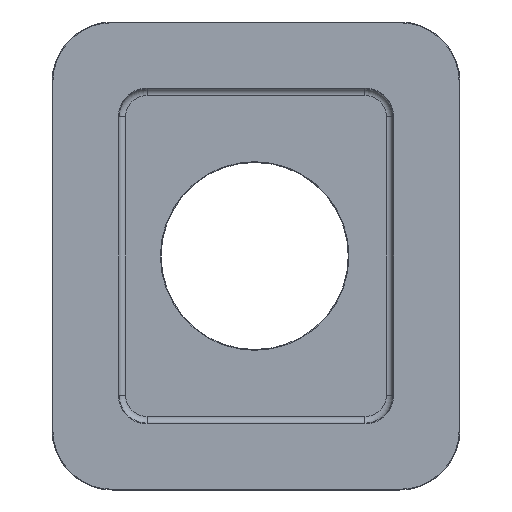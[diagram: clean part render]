
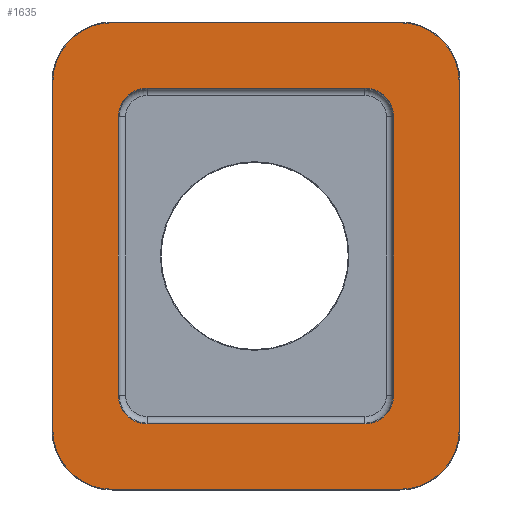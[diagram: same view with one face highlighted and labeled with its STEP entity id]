
A CAD part, front view. The second image highlights one B-rep face of the part: STEP entity #1635.
In plain terms, the highlighted planar face has unit normal (0, -1, 0).
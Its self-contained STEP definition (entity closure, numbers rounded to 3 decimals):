
#1048 = VERTEX_POINT('',#1049);
#1049 = CARTESIAN_POINT('',(45.,300.,0.5));
#1057 = VERTEX_POINT('',#1058);
#1058 = CARTESIAN_POINT('',(260.,300.,0.5));
#1064 = EDGE_CURVE('',#1048,#1057,#1065,.T.);
#1065 = LINE('',#1066,#1067);
#1066 = CARTESIAN_POINT('',(45.,300.,0.5));
#1067 = VECTOR('',#1068,1.);
#1068 = DIRECTION('',(1.,0.,0.));
#1079 = VERTEX_POINT('',#1080);
#1080 = CARTESIAN_POINT('',(0.5,300.,45.));
#1088 = EDGE_CURVE('',#1079,#1048,#1089,.T.);
#1089 = CIRCLE('',#1090,44.5);
#1090 = AXIS2_PLACEMENT_3D('',#1091,#1092,#1093);
#1091 = CARTESIAN_POINT('',(45.,300.,45.));
#1092 = DIRECTION('',(0.,-1.,-0.));
#1093 = DIRECTION('',(-1.,0.,0.));
#1104 = VERTEX_POINT('',#1105);
#1105 = CARTESIAN_POINT('',(0.5,300.,305.));
#1113 = EDGE_CURVE('',#1104,#1079,#1114,.T.);
#1114 = LINE('',#1115,#1116);
#1115 = CARTESIAN_POINT('',(0.5,300.,305.));
#1116 = VECTOR('',#1117,1.);
#1117 = DIRECTION('',(-0.,-0.,-1.));
#1228 = VERTEX_POINT('',#1229);
#1229 = CARTESIAN_POINT('',(45.,300.,349.5));
#1237 = EDGE_CURVE('',#1228,#1104,#1238,.T.);
#1238 = CIRCLE('',#1239,44.5);
#1239 = AXIS2_PLACEMENT_3D('',#1240,#1241,#1242);
#1240 = CARTESIAN_POINT('',(45.,300.,305.));
#1241 = DIRECTION('',(-0.,-1.,0.));
#1242 = DIRECTION('',(0.,0.,1.));
#1253 = VERTEX_POINT('',#1254);
#1254 = CARTESIAN_POINT('',(260.,300.,349.5));
#1262 = EDGE_CURVE('',#1253,#1228,#1263,.T.);
#1263 = LINE('',#1264,#1265);
#1264 = CARTESIAN_POINT('',(260.,300.,349.5));
#1265 = VECTOR('',#1266,1.);
#1266 = DIRECTION('',(-1.,-0.,-0.));
#1277 = VERTEX_POINT('',#1278);
#1278 = CARTESIAN_POINT('',(304.5,300.,305.));
#1286 = EDGE_CURVE('',#1277,#1253,#1287,.T.);
#1287 = CIRCLE('',#1288,44.5);
#1288 = AXIS2_PLACEMENT_3D('',#1289,#1290,#1291);
#1289 = CARTESIAN_POINT('',(260.,300.,305.));
#1290 = DIRECTION('',(0.,-1.,0.));
#1291 = DIRECTION('',(1.,0.,0.));
#1302 = VERTEX_POINT('',#1303);
#1303 = CARTESIAN_POINT('',(304.5,300.,45.));
#1311 = EDGE_CURVE('',#1302,#1277,#1312,.T.);
#1312 = LINE('',#1313,#1314);
#1313 = CARTESIAN_POINT('',(304.5,300.,45.));
#1314 = VECTOR('',#1315,1.);
#1315 = DIRECTION('',(0.,0.,1.));
#1428 = EDGE_CURVE('',#1057,#1302,#1429,.T.);
#1429 = CIRCLE('',#1430,44.5);
#1430 = AXIS2_PLACEMENT_3D('',#1431,#1432,#1433);
#1431 = CARTESIAN_POINT('',(260.,300.,45.));
#1432 = DIRECTION('',(0.,-1.,0.));
#1433 = DIRECTION('',(0.,0.,-1.));
#1635 = ADVANCED_FACE('',(#1636,#1646),#1716,.F.);
#1636 = FACE_BOUND('',#1637,.F.);
#1637 = EDGE_LOOP('',(#1638,#1639,#1640,#1641,#1642,#1643,#1644,#1645));
#1638 = ORIENTED_EDGE('',*,*,#1064,.F.);
#1639 = ORIENTED_EDGE('',*,*,#1088,.F.);
#1640 = ORIENTED_EDGE('',*,*,#1113,.F.);
#1641 = ORIENTED_EDGE('',*,*,#1237,.F.);
#1642 = ORIENTED_EDGE('',*,*,#1262,.F.);
#1643 = ORIENTED_EDGE('',*,*,#1286,.F.);
#1644 = ORIENTED_EDGE('',*,*,#1311,.F.);
#1645 = ORIENTED_EDGE('',*,*,#1428,.F.);
#1646 = FACE_BOUND('',#1647,.F.);
#1647 = EDGE_LOOP('',(#1648,#1658,#1667,#1675,#1684,#1692,#1701,#1709));
#1648 = ORIENTED_EDGE('',*,*,#1649,.F.);
#1649 = EDGE_CURVE('',#1650,#1652,#1654,.T.);
#1650 = VERTEX_POINT('',#1651);
#1651 = CARTESIAN_POINT('',(49.5,300.,71.));
#1652 = VERTEX_POINT('',#1653);
#1653 = CARTESIAN_POINT('',(49.5,300.,279.));
#1654 = LINE('',#1655,#1656);
#1655 = CARTESIAN_POINT('',(49.5,300.,71.));
#1656 = VECTOR('',#1657,1.);
#1657 = DIRECTION('',(0.,0.,1.));
#1658 = ORIENTED_EDGE('',*,*,#1659,.F.);
#1659 = EDGE_CURVE('',#1660,#1650,#1662,.T.);
#1660 = VERTEX_POINT('',#1661);
#1661 = CARTESIAN_POINT('',(71.,300.,49.5));
#1662 = CIRCLE('',#1663,21.5);
#1663 = AXIS2_PLACEMENT_3D('',#1664,#1665,#1666);
#1664 = CARTESIAN_POINT('',(71.,300.,71.));
#1665 = DIRECTION('',(0.,1.,0.));
#1666 = DIRECTION('',(0.,0.,-1.));
#1667 = ORIENTED_EDGE('',*,*,#1668,.F.);
#1668 = EDGE_CURVE('',#1669,#1660,#1671,.T.);
#1669 = VERTEX_POINT('',#1670);
#1670 = CARTESIAN_POINT('',(234.,300.,49.5));
#1671 = LINE('',#1672,#1673);
#1672 = CARTESIAN_POINT('',(234.,300.,49.5));
#1673 = VECTOR('',#1674,1.);
#1674 = DIRECTION('',(-1.,-0.,-0.));
#1675 = ORIENTED_EDGE('',*,*,#1676,.F.);
#1676 = EDGE_CURVE('',#1677,#1669,#1679,.T.);
#1677 = VERTEX_POINT('',#1678);
#1678 = CARTESIAN_POINT('',(255.5,300.,71.));
#1679 = CIRCLE('',#1680,21.5);
#1680 = AXIS2_PLACEMENT_3D('',#1681,#1682,#1683);
#1681 = CARTESIAN_POINT('',(234.,300.,71.));
#1682 = DIRECTION('',(0.,1.,0.));
#1683 = DIRECTION('',(1.,0.,0.));
#1684 = ORIENTED_EDGE('',*,*,#1685,.F.);
#1685 = EDGE_CURVE('',#1686,#1677,#1688,.T.);
#1686 = VERTEX_POINT('',#1687);
#1687 = CARTESIAN_POINT('',(255.5,300.,279.));
#1688 = LINE('',#1689,#1690);
#1689 = CARTESIAN_POINT('',(255.5,300.,279.));
#1690 = VECTOR('',#1691,1.);
#1691 = DIRECTION('',(-0.,-0.,-1.));
#1692 = ORIENTED_EDGE('',*,*,#1693,.F.);
#1693 = EDGE_CURVE('',#1694,#1686,#1696,.T.);
#1694 = VERTEX_POINT('',#1695);
#1695 = CARTESIAN_POINT('',(234.,300.,300.5));
#1696 = CIRCLE('',#1697,21.5);
#1697 = AXIS2_PLACEMENT_3D('',#1698,#1699,#1700);
#1698 = CARTESIAN_POINT('',(234.,300.,279.));
#1699 = DIRECTION('',(0.,1.,0.));
#1700 = DIRECTION('',(0.,0.,1.));
#1701 = ORIENTED_EDGE('',*,*,#1702,.F.);
#1702 = EDGE_CURVE('',#1703,#1694,#1705,.T.);
#1703 = VERTEX_POINT('',#1704);
#1704 = CARTESIAN_POINT('',(71.,300.,300.5));
#1705 = LINE('',#1706,#1707);
#1706 = CARTESIAN_POINT('',(71.,300.,300.5));
#1707 = VECTOR('',#1708,1.);
#1708 = DIRECTION('',(1.,0.,0.));
#1709 = ORIENTED_EDGE('',*,*,#1710,.F.);
#1710 = EDGE_CURVE('',#1652,#1703,#1711,.T.);
#1711 = CIRCLE('',#1712,21.5);
#1712 = AXIS2_PLACEMENT_3D('',#1713,#1714,#1715);
#1713 = CARTESIAN_POINT('',(71.,300.,279.));
#1714 = DIRECTION('',(0.,1.,-0.));
#1715 = DIRECTION('',(-1.,0.,0.));
#1716 = PLANE('',#1717);
#1717 = AXIS2_PLACEMENT_3D('',#1718,#1719,#1720);
#1718 = CARTESIAN_POINT('',(0.,300.,0.));
#1719 = DIRECTION('',(0.,1.,0.));
#1720 = DIRECTION('',(0.,0.,1.));
